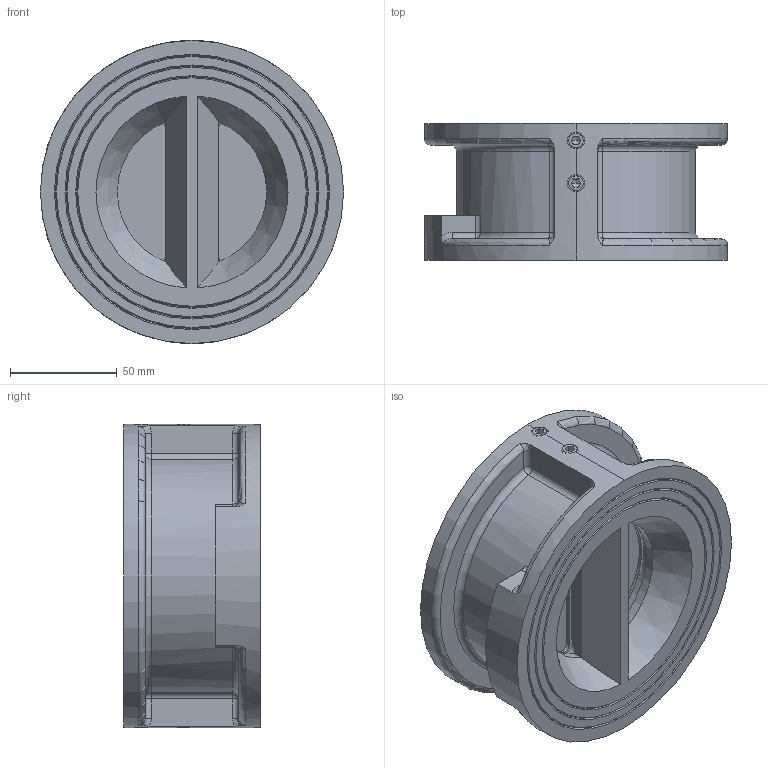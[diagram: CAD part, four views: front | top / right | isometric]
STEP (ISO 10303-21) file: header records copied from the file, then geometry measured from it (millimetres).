
FILE_DESCRIPTION (( 'STEP AP203' ), '1' );
FILE_NAME ('5306 DN80 ×°Åä.STEP', '2025-02-12T08:45:25', ( '' ), ( '' ), 'SwSTEP 2.0', 'SolidWorks 2018', '' );
FILE_SCHEMA (( 'CONFIG_CONTROL_DESIGN' ));
Length unit declared in the file: millimetre
Products named in the file (6): 5306 DN80 概极; 80粣; 80詠啣; GB╱T 77-2007[内六角平端紧定螺钉M8×10]_M8×10; 80蝶; 5306 DN80 蚾饜
Assembly tree (10 placements, depth 2):
  5306 DN80 蚾饜
    5306 DN80 概极
    80蝶
    80詠啣  x2
    80粣  x2
    GB╱T 77-2007[内六角平端紧定螺钉M8×10]_M8×10  x4
Bounding box: 142 x 64 x 142 mm (x, y, z)
Volume: 467516.6 mm3; surface area: 117830.9 mm2
Topology: 10 solids, 10 shells, 333 faces, 826 edges, 500 vertices
Faces by surface type: plane 124, cylinder 105, cone 66, bspline 18, torus 10, sphere 10
Entity records: 8927 total; most frequent: CARTESIAN_POINT 2840, DIRECTION 1146, ORIENTED_EDGE 1108, EDGE_CURVE 554, AXIS2_PLACEMENT_3D 453, VERTEX_POINT 341, EDGE_LOOP 251, VECTOR 240
